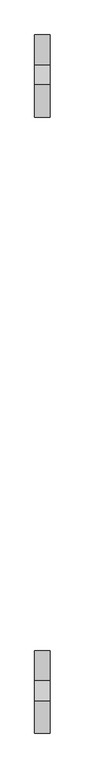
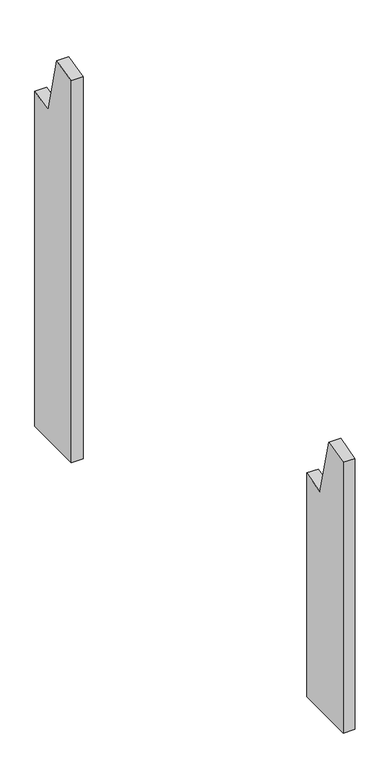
"""IFC4 building model written with IfcOpenShell, lengths in millimetres: proxy geometry, Modelos genéricos 125 : Modelos genéricos 5."""

from ifc_helpers import new_model, si_unit, frame, origin, place, context, project, spatial, polyline, outline, extrude, source, transform, mapped, element, save


def generic_models_1f937349(model_context):
    return source(origin(), model_context, "Body", "SweptSolid", [
        extrude(outline(polyline([(628.6238165, 3000.0), (468.6238165, 3000.0), (468.6238165, 4023.0972283), (531.6985696, 4038.8235305), (570.4060729, 3883.5762143), (628.6238165, 3898.0915281), (628.6238165, 3000.0)])), frame((9283.4472467, 0.0, 0.0), z_axis=(1.0, 0.0, 0.0), x_axis=(0.0, 1.0, 0.0)), (0.0, 0.0, 1.0), 30.0),
        extrude(outline(polyline([(-566.3761835, 3000.0), (-726.3761835, 3000.0), (-726.3761835, 3725.1502649), (-663.3014304, 3740.8765671), (-624.5939271, 3585.6292509), (-566.3761835, 3600.1445647), (-566.3761835, 3000.0)])), frame((9283.4472467, 0.0, 0.0), z_axis=(1.0, 0.0, 0.0), x_axis=(0.0, 1.0, 0.0)), (0.0, 0.0, 1.0), 30.0),
    ])


if __name__ == "__main__":
    model = new_model("IFC4")
    model_context = context("Model", 3, world=origin())
    ifc_project = project(units=[si_unit("LENGTHUNIT", "METRE", prefix="MILLI")], contexts=[model_context])
    site = spatial("IfcSite", under=ifc_project)
    building = spatial("IfcBuilding", under=site)
    placement = place(None, origin())
    generic_models_shape = generic_models_1f937349(model_context)
    element("IfcBuildingElementProxy", 1, Name="Modelos genéricos 125 : Modelos genéricos 5", ObjectType="Modelos genéricos 125 : Modelos genéricos 5", at=placement, inside=building, context=model_context, shape_type="MappedRepresentation", body=[
        mapped(generic_models_shape, transform((0.0, 0.0, 0.0), x_axis=(1.0, 0.0, 0.0), y_axis=(0.0, 1.0, 0.0), z_axis=(0.0, 0.0, 1.0))),
    ])
    save(model, "model.ifc")
